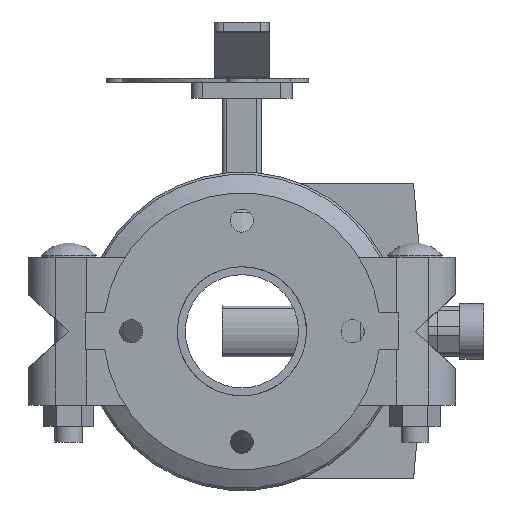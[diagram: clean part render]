
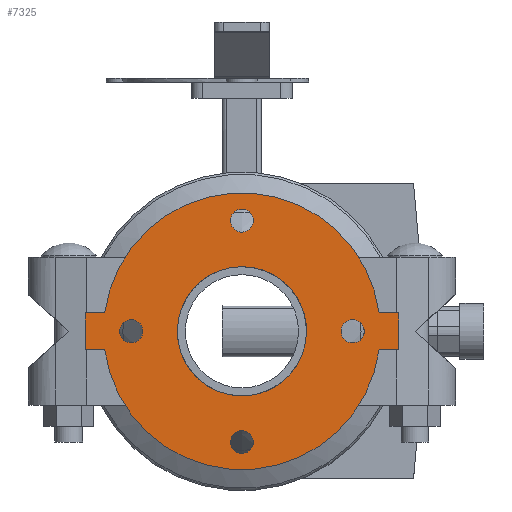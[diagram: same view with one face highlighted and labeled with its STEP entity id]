
A CAD part, front view. The second image highlights one B-rep face of the part: STEP entity #7325.
In plain terms, the highlighted planar face has unit normal (0, -1, 0) as drawn and (0, 0, -1) by its records, which use the part's own axes.
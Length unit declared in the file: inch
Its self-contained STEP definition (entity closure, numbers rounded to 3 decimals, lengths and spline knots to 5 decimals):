
#170=FACE_BOUND('',#903,.T.);
#171=FACE_BOUND('',#904,.T.);
#172=FACE_BOUND('',#905,.T.);
#173=FACE_BOUND('',#906,.T.);
#174=FACE_BOUND('',#907,.T.);
#260=PLANE('',#7944);
#497=FACE_OUTER_BOUND('',#902,.T.);
#902=EDGE_LOOP('',(#4688,#4689,#4690,#4691,#4692,#4693,#4694,#4695));
#903=EDGE_LOOP('',(#4696));
#904=EDGE_LOOP('',(#4697));
#905=EDGE_LOOP('',(#4698));
#906=EDGE_LOOP('',(#4699));
#907=EDGE_LOOP('',(#4700,#4701));
#1397=LINE('',#11130,#1950);
#1398=LINE('',#11132,#1951);
#1399=LINE('',#11134,#1952);
#1400=LINE('',#11138,#1953);
#1401=LINE('',#11140,#1954);
#1402=LINE('',#11141,#1955);
#1950=VECTOR('',#8838,0.3937);
#1951=VECTOR('',#8839,0.3937);
#1952=VECTOR('',#8840,0.3937);
#1953=VECTOR('',#8843,0.3937);
#1954=VECTOR('',#8844,0.3937);
#1955=VECTOR('',#8845,0.3937);
#2500=CIRCLE('',#7934,0.3125);
#2502=CIRCLE('',#7937,0.3125);
#2504=CIRCLE('',#7940,0.3125);
#2506=CIRCLE('',#7943,0.3125);
#2507=CIRCLE('',#7945,3.75);
#2508=CIRCLE('',#7946,3.75);
#2509=CIRCLE('',#7947,1.75);
#2510=CIRCLE('',#7948,1.75);
#2924=VERTEX_POINT('',#11104);
#2926=VERTEX_POINT('',#11110);
#2928=VERTEX_POINT('',#11116);
#2930=VERTEX_POINT('',#11122);
#2931=VERTEX_POINT('',#11126);
#2932=VERTEX_POINT('',#11127);
#2933=VERTEX_POINT('',#11129);
#2934=VERTEX_POINT('',#11131);
#2935=VERTEX_POINT('',#11133);
#2936=VERTEX_POINT('',#11135);
#2937=VERTEX_POINT('',#11137);
#2938=VERTEX_POINT('',#11139);
#2939=VERTEX_POINT('',#11142);
#2940=VERTEX_POINT('',#11143);
#3629=EDGE_CURVE('',#2924,#2924,#2500,.T.);
#3632=EDGE_CURVE('',#2926,#2926,#2502,.T.);
#3635=EDGE_CURVE('',#2928,#2928,#2504,.T.);
#3638=EDGE_CURVE('',#2930,#2930,#2506,.T.);
#3639=EDGE_CURVE('',#2931,#2932,#2507,.T.);
#3640=EDGE_CURVE('',#2932,#2933,#1397,.T.);
#3641=EDGE_CURVE('',#2933,#2934,#1398,.T.);
#3642=EDGE_CURVE('',#2934,#2935,#1399,.T.);
#3643=EDGE_CURVE('',#2935,#2936,#2508,.T.);
#3644=EDGE_CURVE('',#2936,#2937,#1400,.T.);
#3645=EDGE_CURVE('',#2937,#2938,#1401,.T.);
#3646=EDGE_CURVE('',#2938,#2931,#1402,.T.);
#3647=EDGE_CURVE('',#2939,#2940,#2509,.T.);
#3648=EDGE_CURVE('',#2940,#2939,#2510,.T.);
#4688=ORIENTED_EDGE('',*,*,#3639,.T.);
#4689=ORIENTED_EDGE('',*,*,#3640,.T.);
#4690=ORIENTED_EDGE('',*,*,#3641,.T.);
#4691=ORIENTED_EDGE('',*,*,#3642,.T.);
#4692=ORIENTED_EDGE('',*,*,#3643,.T.);
#4693=ORIENTED_EDGE('',*,*,#3644,.T.);
#4694=ORIENTED_EDGE('',*,*,#3645,.T.);
#4695=ORIENTED_EDGE('',*,*,#3646,.T.);
#4696=ORIENTED_EDGE('',*,*,#3629,.T.);
#4697=ORIENTED_EDGE('',*,*,#3632,.T.);
#4698=ORIENTED_EDGE('',*,*,#3635,.T.);
#4699=ORIENTED_EDGE('',*,*,#3638,.T.);
#4700=ORIENTED_EDGE('',*,*,#3647,.T.);
#4701=ORIENTED_EDGE('',*,*,#3648,.T.);
#7325=ADVANCED_FACE('',(#497,#170,#171,#172,#173,#174),#260,.T.);
#7934=AXIS2_PLACEMENT_3D('',#11106,#8811,#8812);
#7937=AXIS2_PLACEMENT_3D('',#11112,#8818,#8819);
#7940=AXIS2_PLACEMENT_3D('',#11118,#8825,#8826);
#7943=AXIS2_PLACEMENT_3D('',#11124,#8832,#8833);
#7944=AXIS2_PLACEMENT_3D('',#11125,#8834,#8835);
#7945=AXIS2_PLACEMENT_3D('',#11128,#8836,#8837);
#7946=AXIS2_PLACEMENT_3D('',#11136,#8841,#8842);
#7947=AXIS2_PLACEMENT_3D('',#11144,#8846,#8847);
#7948=AXIS2_PLACEMENT_3D('',#11145,#8848,#8849);
#8811=DIRECTION('center_axis',(0.,0.,1.));
#8812=DIRECTION('ref_axis',(0.,1.,0.));
#8818=DIRECTION('center_axis',(0.,0.,1.));
#8819=DIRECTION('ref_axis',(1.,0.,0.));
#8825=DIRECTION('center_axis',(0.,0.,1.));
#8826=DIRECTION('ref_axis',(0.,-1.,0.));
#8832=DIRECTION('center_axis',(0.,0.,1.));
#8833=DIRECTION('ref_axis',(-1.,0.,0.));
#8834=DIRECTION('center_axis',(0.,0.,-1.));
#8835=DIRECTION('ref_axis',(-1.,0.,0.));
#8836=DIRECTION('center_axis',(0.,0.,-1.));
#8837=DIRECTION('ref_axis',(-1.,0.,0.));
#8838=DIRECTION('',(0.,1.,0.));
#8839=DIRECTION('',(1.,0.,0.));
#8840=DIRECTION('',(0.,-1.,0.));
#8841=DIRECTION('center_axis',(0.,0.,-1.));
#8842=DIRECTION('ref_axis',(-1.,0.,0.));
#8843=DIRECTION('',(0.,-1.,0.));
#8844=DIRECTION('',(-1.,0.,0.));
#8845=DIRECTION('',(0.,1.,0.));
#8846=DIRECTION('center_axis',(0.,0.,1.));
#8847=DIRECTION('ref_axis',(-1.,0.,0.));
#8848=DIRECTION('center_axis',(0.,0.,1.));
#8849=DIRECTION('ref_axis',(-1.,0.,0.));
#11104=CARTESIAN_POINT('',(0.,2.6875,-0.5));
#11106=CARTESIAN_POINT('Origin',(0.,3.,-0.5));
#11110=CARTESIAN_POINT('',(2.6875,0.,-0.5));
#11112=CARTESIAN_POINT('Origin',(3.,0.,-0.5));
#11116=CARTESIAN_POINT('',(0.,-2.6875,-0.5));
#11118=CARTESIAN_POINT('Origin',(0.,-3.,-0.5));
#11122=CARTESIAN_POINT('',(-2.6875,0.,-0.5));
#11124=CARTESIAN_POINT('Origin',(-3.,0.,-0.5));
#11125=CARTESIAN_POINT('Origin',(0.,0.,-0.5));
#11126=CARTESIAN_POINT('',(-0.5,-3.71652,-0.5));
#11127=CARTESIAN_POINT('',(-0.5,3.71652,-0.5));
#11128=CARTESIAN_POINT('Origin',(0.,0.,-0.5));
#11129=CARTESIAN_POINT('',(-0.5,4.25,-0.5));
#11130=CARTESIAN_POINT('',(-0.5,-4.25,-0.5));
#11131=CARTESIAN_POINT('',(0.5,4.25,-0.5));
#11132=CARTESIAN_POINT('',(-0.5,4.25,-0.5));
#11133=CARTESIAN_POINT('',(0.5,3.71652,-0.5));
#11134=CARTESIAN_POINT('',(0.5,4.25,-0.5));
#11135=CARTESIAN_POINT('',(0.5,-3.71652,-0.5));
#11136=CARTESIAN_POINT('Origin',(0.,0.,-0.5));
#11137=CARTESIAN_POINT('',(0.5,-4.25,-0.5));
#11138=CARTESIAN_POINT('',(0.5,4.25,-0.5));
#11139=CARTESIAN_POINT('',(-0.5,-4.25,-0.5));
#11140=CARTESIAN_POINT('',(0.5,-4.25,-0.5));
#11141=CARTESIAN_POINT('',(-0.5,-4.25,-0.5));
#11142=CARTESIAN_POINT('',(0.5,1.67705,-0.5));
#11143=CARTESIAN_POINT('',(1.75,0.,-0.5));
#11144=CARTESIAN_POINT('Origin',(0.,0.,-0.5));
#11145=CARTESIAN_POINT('Origin',(0.,0.,-0.5));
